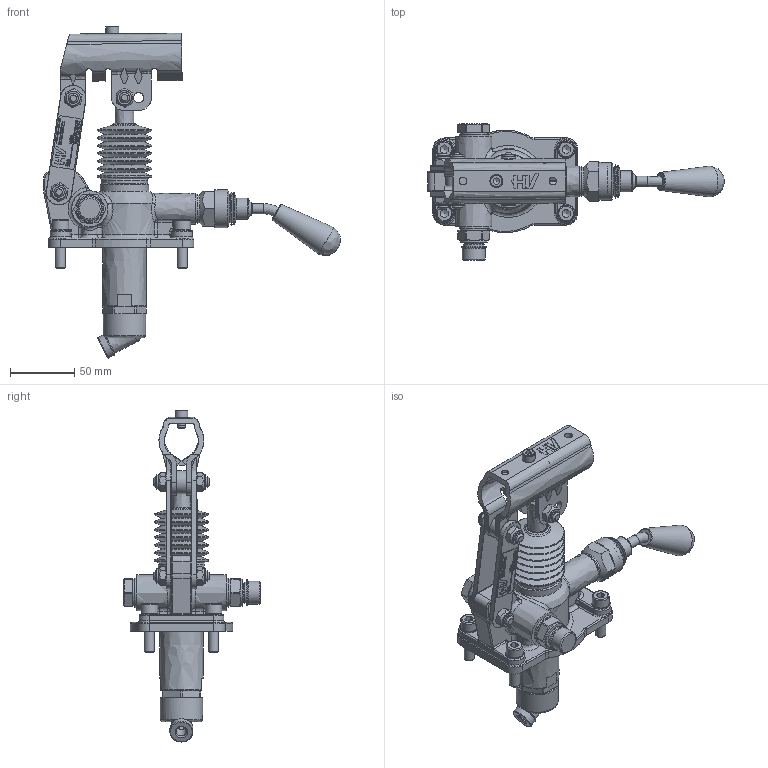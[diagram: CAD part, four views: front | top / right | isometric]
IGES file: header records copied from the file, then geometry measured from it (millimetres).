
Global section: file name: No Iges File Name specified; native system: Autodesk Inventor 2013; preprocessor: AutoDesk Inventor Iges Exporter R2013; author: christian.scardovi; date: 20240228.075307; units: millimetre
Bounding box: 231.27 x 106.5 x 258.81 mm (x, y, z)
Volume: 414765.1 mm3; surface area: 124637.2 mm2
Topology: 3 solids, 3 shells, 1479 faces, 3697 edges, 2328 vertices
Faces by surface type: bspline 1479
